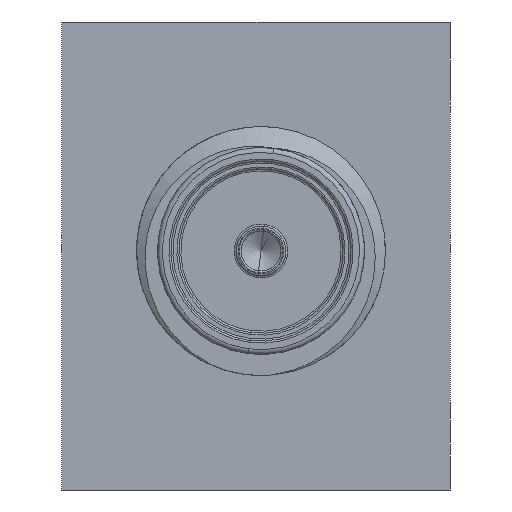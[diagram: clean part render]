
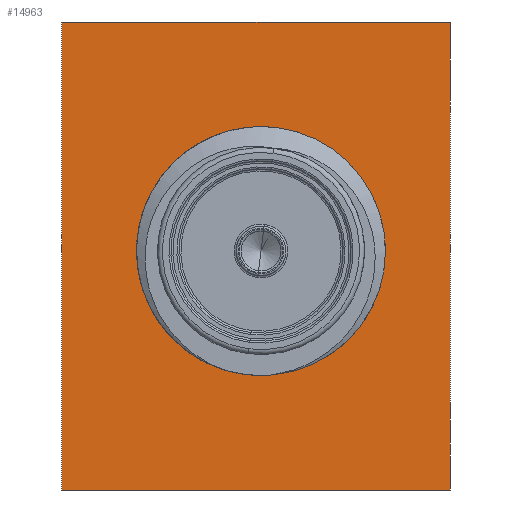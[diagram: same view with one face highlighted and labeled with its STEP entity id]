
A CAD part, left-side view. The second image highlights one B-rep face of the part: STEP entity #14963.
In plain terms, the highlighted planar face has unit normal (-1, 0, 0).
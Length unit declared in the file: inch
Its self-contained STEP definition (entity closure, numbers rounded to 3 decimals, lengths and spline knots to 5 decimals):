
#660 = CARTESIAN_POINT ( 'NONE',  ( 0., 0.39, -0.47 ) ) ;
#4044 = FACE_OUTER_BOUND ( 'NONE', #16949, .T. ) ;
#4531 = ORIENTED_EDGE ( 'NONE', *, *, #15210, .T. ) ;
#5194 = VERTEX_POINT ( 'NONE', #9586 ) ;
#8592 = DIRECTION ( 'NONE',  ( 0., 0., 1. ) ) ;
#8892 = VECTOR ( 'NONE', #20492, 39.37008 ) ;
#9469 = VECTOR ( 'NONE', #10895, 39.37008 ) ;
#9586 = CARTESIAN_POINT ( 'NONE',  ( 0., 0.39, 0. ) ) ;
#10808 = ORIENTED_EDGE ( 'NONE', *, *, #23922, .F. ) ;
#10895 = DIRECTION ( 'NONE',  ( 0., -1., 0. ) ) ;
#11253 = CARTESIAN_POINT ( 'NONE',  ( 0., 0., 0. ) ) ;
#11855 = PLANE ( 'NONE',  #24251 ) ;
#12512 = EDGE_CURVE ( 'NONE', #16851, #14981, #23962, .T. ) ;
#14149 = CARTESIAN_POINT ( 'NONE',  ( 0., 0.39, 0. ) ) ;
#14600 = LINE ( 'NONE', #18321, #17515 ) ;
#14963 = ADVANCED_FACE ( 'NONE', ( #4044 ), #11855, .F. ) ;
#14981 = VERTEX_POINT ( 'NONE', #22319 ) ;
#15210 = EDGE_CURVE ( 'NONE', #14981, #21441, #19880, .T. ) ;
#16650 = CARTESIAN_POINT ( 'NONE',  ( 0., 0.39, 0. ) ) ;
#16851 = VERTEX_POINT ( 'NONE', #22135 ) ;
#16949 = EDGE_LOOP ( 'NONE', ( #4531, #20896, #10808, #17449 ) ) ;
#17449 = ORIENTED_EDGE ( 'NONE', *, *, #12512, .T. ) ;
#17515 = VECTOR ( 'NONE', #8592, 39.37008 ) ;
#18321 = CARTESIAN_POINT ( 'NONE',  ( 0., 0.39, 0. ) ) ;
#19664 = DIRECTION ( 'NONE',  ( 1., 0., 0. ) ) ;
#19880 = LINE ( 'NONE', #22044, #25083 ) ;
#20313 = EDGE_CURVE ( 'NONE', #5194, #21441, #20736, .T. ) ;
#20492 = DIRECTION ( 'NONE',  ( 0., -1., 0. ) ) ;
#20736 = LINE ( 'NONE', #16650, #9469 ) ;
#20896 = ORIENTED_EDGE ( 'NONE', *, *, #20313, .F. ) ;
#21441 = VERTEX_POINT ( 'NONE', #11253 ) ;
#21542 = DIRECTION ( 'NONE',  ( 0., 0., 1. ) ) ;
#21829 = DIRECTION ( 'NONE',  ( 0., 0., -1. ) ) ;
#22044 = CARTESIAN_POINT ( 'NONE',  ( 0., 0., 0. ) ) ;
#22135 = CARTESIAN_POINT ( 'NONE',  ( 0., 0.39, -0.47 ) ) ;
#22319 = CARTESIAN_POINT ( 'NONE',  ( 0., 0., -0.47 ) ) ;
#23922 = EDGE_CURVE ( 'NONE', #16851, #5194, #14600, .T. ) ;
#23962 = LINE ( 'NONE', #660, #8892 ) ;
#24251 = AXIS2_PLACEMENT_3D ( 'NONE', #14149, #19664, #21829 ) ;
#25083 = VECTOR ( 'NONE', #21542, 39.37008 ) ;
